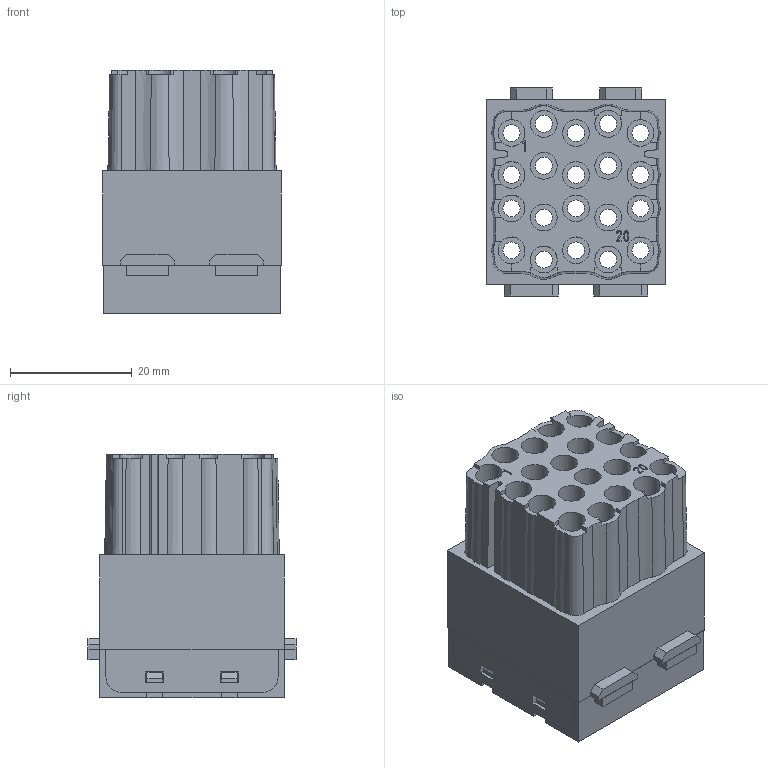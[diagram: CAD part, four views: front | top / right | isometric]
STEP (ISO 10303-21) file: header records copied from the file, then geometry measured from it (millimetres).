
FILE_DESCRIPTION(/* description */ (''),/* implementation_level */ '2;1');
FILE_NAME(/* name */ 'HM-020-F.stp',/* time_stamp */ '2023-09-19T09:23:08+08:00',/* author */ (''),/* organization */ (''),/* preprocessor_version */ 'ST-DEVELOPER v16.7',/* originating_system */ 'SIEMENS PLM Software NX 12.0',/* authorisation */ '');
FILE_SCHEMA (('AUTOMOTIVE_DESIGN { 1 0 10303 214 3 1 1 1 }'));
Length unit declared in the file: millimetre
Products named in the file (1): 09140203101_100095325MOD000G_stp
Bounding box: 29.35 x 34.2 x 39.95 mm (x, y, z)
Volume: 18840.4 mm3; surface area: 18766.8 mm2
Topology: 1 solids, 1 shells, 643 faces, 1770 edges, 1192 vertices
Faces by surface type: plane 399, cylinder 104, extrusion 76, cone 44, bspline 20
Full cylindrical faces by diameter (mm): 2.8 x20, 4.4 x20, 4.8 x20
Entity records: 21778 total; most frequent: CARTESIAN_POINT 5996, ORIENTED_EDGE 3382, DIRECTION 2896, EDGE_CURVE 1691, VERTEX_POINT 1173, VECTOR 1078, LINE 1002, AXIS2_PLACEMENT_3D 909
